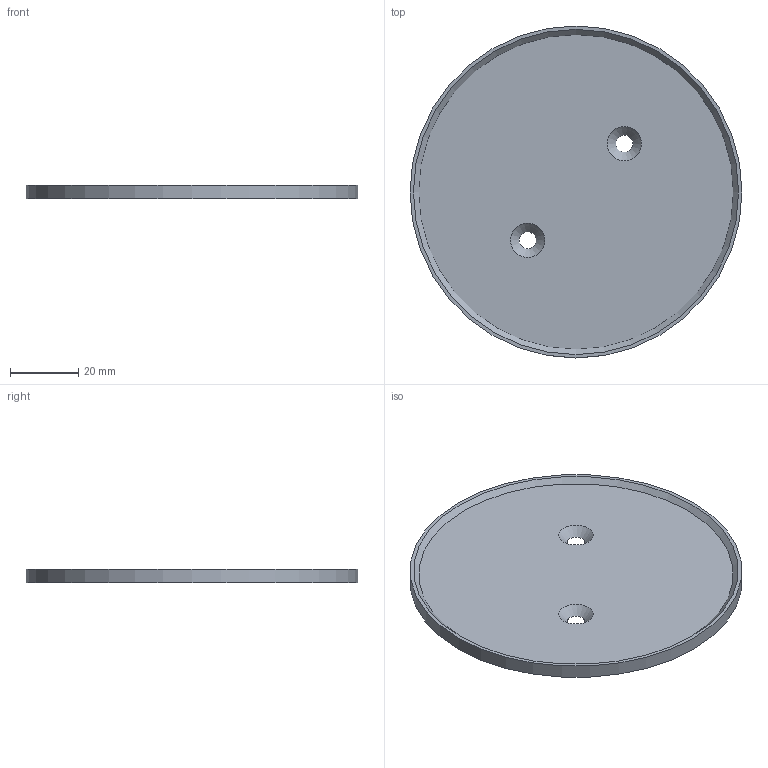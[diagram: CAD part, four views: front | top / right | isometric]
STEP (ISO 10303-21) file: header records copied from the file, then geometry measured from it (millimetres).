
FILE_DESCRIPTION(/* description */ (''),/* implementation_level */ '2;1');
FILE_NAME(/* name */ 'Wall_holder_2.stp',/* time_stamp */ '2019-01-13T14:31:05+01:00',/* author */ (''),/* organization */ (''),/* preprocessor_version */ 'ST-DEVELOPER v16',/* originating_system */ 'SIEMENS PLM Software NX 11.0',/* authorisation */ '');
FILE_SCHEMA (('AUTOMOTIVE_DESIGN { 1 0 10303 214 3 1 1 1 }'));
Length unit declared in the file: millimetre
Products named in the file (1): Wall_holder_2
Bounding box: 97 x 97 x 4 mm (x, y, z)
Volume: 17509.5 mm3; surface area: 16427.8 mm2
Topology: 1 solids, 1 shells, 11 faces, 19 edges, 13 vertices
Faces by surface type: plane 5, cylinder 3, cone 3
Full cylindrical faces by diameter (mm): 22 x2, 97 x1
Entity records: 266 total; most frequent: DIRECTION 48, CARTESIAN_POINT 36, EDGE_LOOP 24, ORIENTED_EDGE 24, AXIS2_PLACEMENT_3D 24, FACE_BOUND 22, VERTEX_POINT 12, EDGE_CURVE 12
